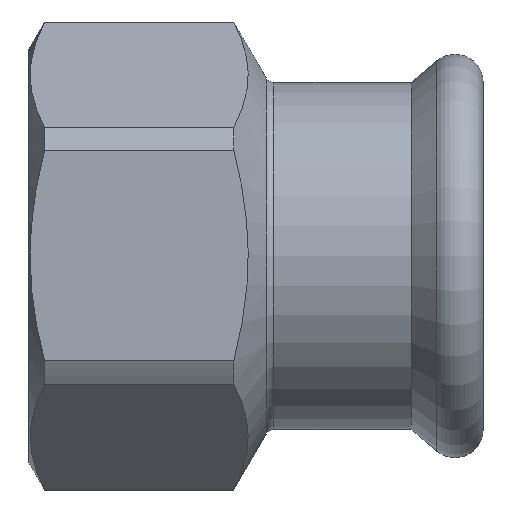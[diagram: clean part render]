
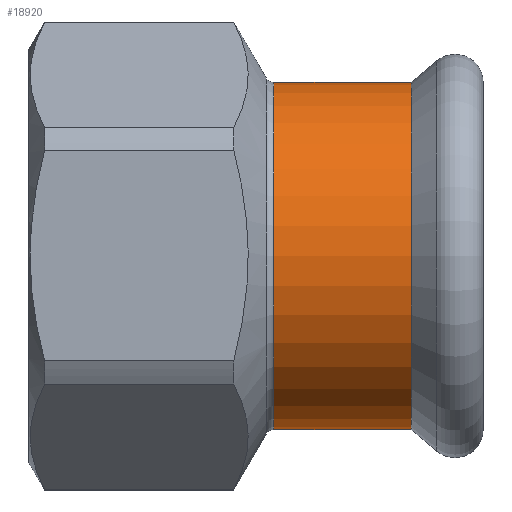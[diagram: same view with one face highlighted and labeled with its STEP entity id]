
A CAD part, top view. The second image highlights one B-rep face of the part: STEP entity #18920.
In plain terms, the highlighted cylindrical face has radius 19.1 mm (diameter 38.2 mm), a partial arc.
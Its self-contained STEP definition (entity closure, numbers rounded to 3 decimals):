
#4060=CARTESIAN_POINT('',(29.897,125.7,0.));
#4070=VERTEX_POINT('',#4060);
#4160=CARTESIAN_POINT('',(29.897,87.5,0.));
#4170=VERTEX_POINT('',#4160);
#4200=CARTESIAN_POINT('',(29.897,106.6,0.));
#4210=DIRECTION('',(-1.,0.,0.));
#4220=DIRECTION('',(0.,-1.,0.));
#4230=AXIS2_PLACEMENT_3D('',#4200,#4210,#4220);
#4240=CIRCLE('',#4230,19.1);
#4300=CARTESIAN_POINT('',(37.449,106.6,0.));
#4310=DIRECTION('',(1.,0.,0.));
#4320=DIRECTION('',(0.,-1.,0.));
#4330=AXIS2_PLACEMENT_3D('',#4300,#4310,#4320);
#4340=CYLINDRICAL_SURFACE('',#4330,19.1);
#4350=CARTESIAN_POINT('',(37.449,125.7,
0.));
#4360=DIRECTION('',(1.,0.,0.));
#4370=VECTOR('',#4360,1.);
#4380=LINE('',#4350,#4370);
#4390=CARTESIAN_POINT('',(45.002,125.7,
0.));
#4400=VERTEX_POINT('',#4390);
#4410=EDGE_CURVE('',#4070,#4400,#4380,.T.);
#4440=CARTESIAN_POINT('',(37.449,87.5,0.));
#4450=DIRECTION('',(1.,0.,0.));
#4460=VECTOR('',#4450,1.);
#4470=LINE('',#4440,#4460);
#4480=CARTESIAN_POINT('',(45.002,87.5,0.));
#4490=VERTEX_POINT('',#4480);
#4500=EDGE_CURVE('',#4170,#4490,#4470,.T.);
#4520=CARTESIAN_POINT('',(45.002,106.6,0.));
#4530=DIRECTION('',(-1.,0.,0.));
#4540=DIRECTION('',(0.,-1.,0.));
#4550=AXIS2_PLACEMENT_3D('',#4520,#4530,#4540);
#4560=CIRCLE('',#4550,19.1);
#17870=EDGE_CURVE('',#4490,#4400,#4560,.T.);
#18850=EDGE_CURVE('',#4170,#4070,#4240,.T.);
#18860=ORIENTED_EDGE('',*,*,#18850,.F.);
#18870=ORIENTED_EDGE('',*,*,#4410,.F.);
#18880=ORIENTED_EDGE('',*,*,#17870,.T.);
#18890=ORIENTED_EDGE('',*,*,#4500,.T.);
#18900=EDGE_LOOP('',(#18890,#18880,#18870,#18860));
#18910=FACE_OUTER_BOUND('',#18900,.T.);
#18920=ADVANCED_FACE('',(#18910),#4340,.T.);
